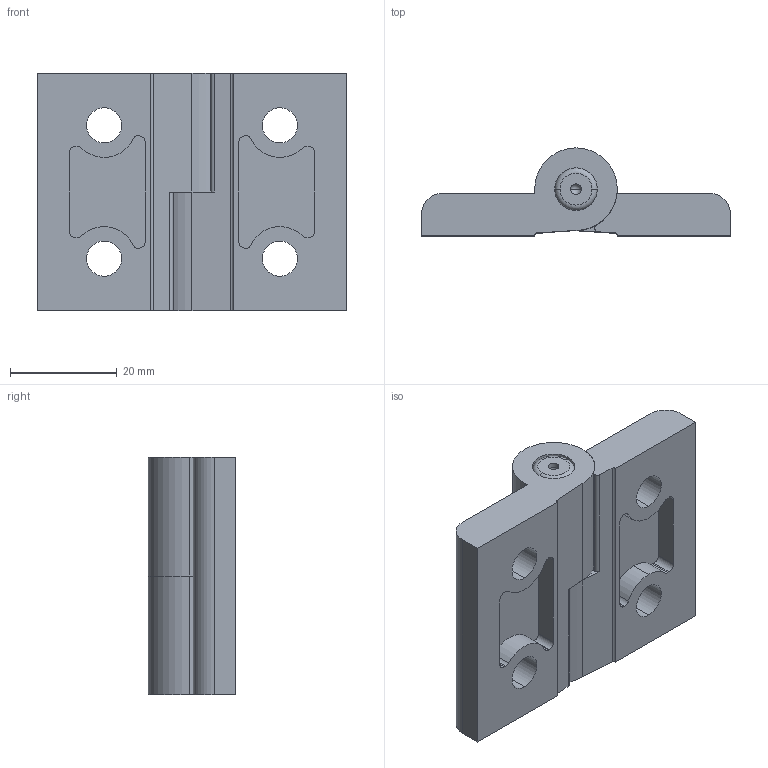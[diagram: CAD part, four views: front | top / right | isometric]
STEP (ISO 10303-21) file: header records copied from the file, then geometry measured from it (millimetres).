
FILE_DESCRIPTION (( 'STEP AP203' ), '1' );
FILE_NAME ('铝合金可拆合页33－25装配体.STEP', '2015-07-27T02:04:06', ( '' ), ( '' ), 'SwSTEP 2.0', 'SolidWorks 2013', '' );
FILE_SCHEMA (( 'CONFIG_CONTROL_DESIGN' ));
Length unit declared in the file: millimetre
Products named in the file (1): 铝合金可拆合页33－25装配体
Bounding box: 58 x 16.5 x 44.5 mm (x, y, z)
Surface area: 9761.6 mm2 (no closed solid volume)
Topology: 0 solids, 3 shells, 96 faces, 256 edges, 167 vertices
Faces by surface type: cylinder 50, plane 32, cone 8, torus 4, sphere 2
Entity records: 3099 total; most frequent: DIRECTION 570, CARTESIAN_POINT 514, ORIENTED_EDGE 500, EDGE_CURVE 252, AXIS2_PLACEMENT_3D 221, VERTEX_POINT 165, LINE 128, VECTOR 128
